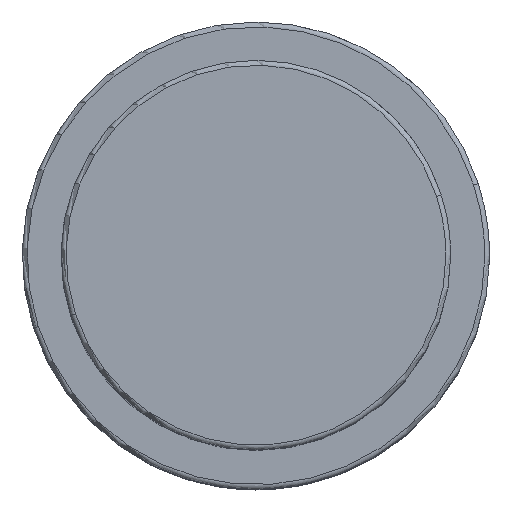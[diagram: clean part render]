
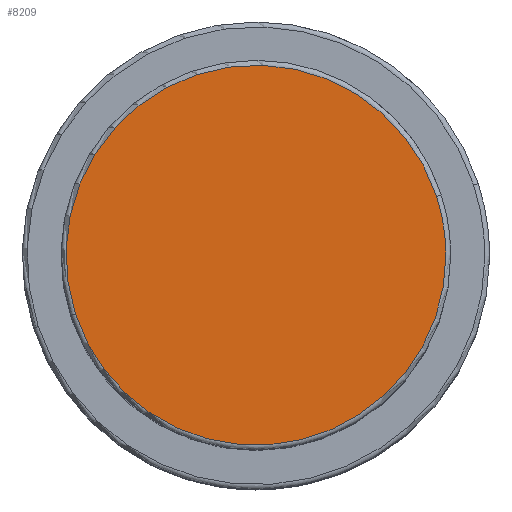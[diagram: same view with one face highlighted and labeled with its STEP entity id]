
A CAD part, top view. The second image highlights one B-rep face of the part: STEP entity #8209.
In plain terms, the highlighted planar face has unit normal (0, 0, 1).
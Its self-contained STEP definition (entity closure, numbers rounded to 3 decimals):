
#8175=CARTESIAN_POINT('',(19.5,0.0,48.5));
#8176=VERTEX_POINT('',#8175);
#8177=CARTESIAN_POINT('',(18.546,6.026,48.5));
#8178=VERTEX_POINT('',#8177);
#8179=CARTESIAN_POINT('',(0.0,0.0,48.5));
#8180=DIRECTION('',(0.0,0.0,1.0));
#8181=DIRECTION('',(1.0,0.0,0.0));
#8182=AXIS2_PLACEMENT_3D('',#8179,#8180,#8181);
#8183=CIRCLE('',#8182,19.5);
#8184=EDGE_CURVE('no 4172',#8176,#8178,#8183,.T.);
#8185=ORIENTED_EDGE('',*,*,#8184,.T.);
#8186=CARTESIAN_POINT('',(-18.546,-6.026,48.5));
#8187=VERTEX_POINT('',#8186);
#8188=CARTESIAN_POINT('',(0.0,0.0,48.5));
#8189=DIRECTION('',(0.0,0.0,1.0));
#8190=DIRECTION('',(1.0,0.0,0.0));
#8191=AXIS2_PLACEMENT_3D('',#8188,#8189,#8190);
#8192=CIRCLE('',#8191,19.5);
#8193=EDGE_CURVE('no 4178',#8178,#8187,#8192,.T.);
#8194=ORIENTED_EDGE('',*,*,#8193,.T.);
#8195=CARTESIAN_POINT('',(0.0,0.0,48.5));
#8196=DIRECTION('',(0.0,0.0,1.0));
#8197=DIRECTION('',(1.0,0.0,0.0));
#8198=AXIS2_PLACEMENT_3D('',#8195,#8196,#8197);
#8199=CIRCLE('',#8198,19.5);
#8200=EDGE_CURVE('no 4182',#8187,#8176,#8199,.T.);
#8201=ORIENTED_EDGE('',*,*,#8200,.T.);
#8202=EDGE_LOOP('',(#8185,#8194,#8201));
#8203=FACE_OUTER_BOUND('',#8202,.T.);
#8204=CARTESIAN_POINT('',(0.0,0.0,48.5));
#8205=DIRECTION('',(0.0,0.0,1.0));
#8206=DIRECTION('',(1.0,0.0,0.0));
#8207=AXIS2_PLACEMENT_3D('',#8204,#8205,#8206);
#8208=PLANE('',#8207);
#8209=ADVANCED_FACE('no 4163',(#8203),#8208,.T.);
